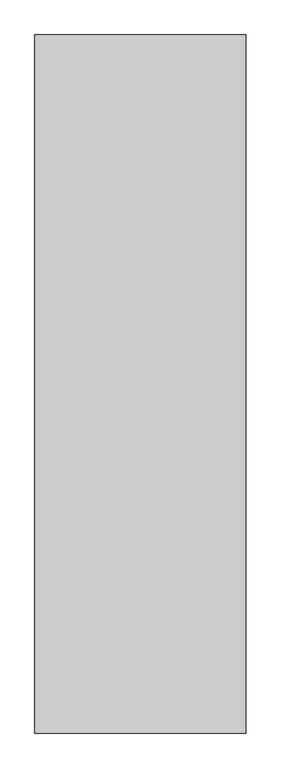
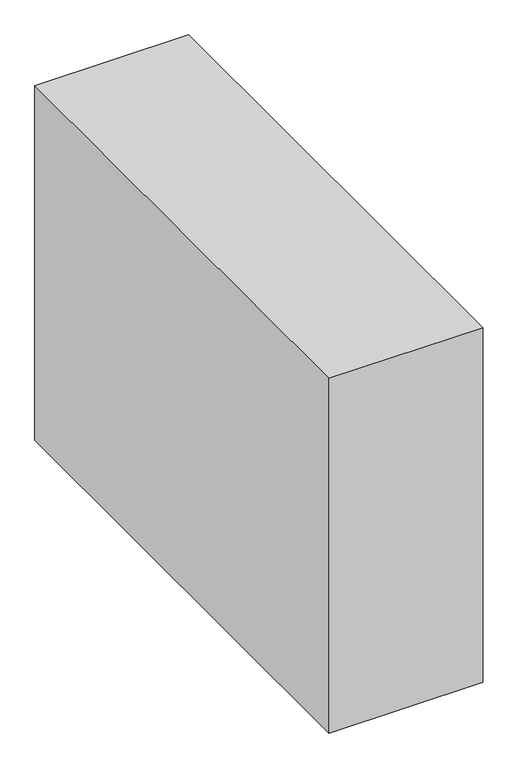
"""IFC4 building model written with IfcOpenShell, lengths in millimetres: proxy geometry."""

from ifc_helpers import new_model, si_unit, frame, origin, place, context, project, spatial, polyline, outline, extrude, source, transform, mapped, element, save


def generic_models_2b8dd830(model_context):
    return source(origin(), model_context, "Body", "SweptSolid", [
        extrude(outline(polyline([(13001.0851773, -1624.0), (12081.0851773, -1624.0), (12081.0851773, 1424.0), (13001.0851773, 1424.0), (13001.0851773, -1624.0)])), frame((0.0, 0.0, 800.0), z_axis=(0.0, 0.0, 1.0), x_axis=(1.0, 0.0, 0.0)), (0.0, 0.0, 1.0), 2240.0),
    ])


if __name__ == "__main__":
    model = new_model("IFC4")
    model_context = context("Model", 3, world=origin())
    ifc_project = project(units=[si_unit("LENGTHUNIT", "METRE", prefix="MILLI")], contexts=[model_context])
    site = spatial("IfcSite", under=ifc_project)
    building = spatial("IfcBuilding", under=site)
    placement = place(None, origin())
    generic_models_shape = generic_models_2b8dd830(model_context)
    element("IfcBuildingElementProxy", 1, Name="Generic Models", at=placement, inside=building, context=model_context, shape_type="MappedRepresentation", body=[
        mapped(generic_models_shape, transform((0.0, 0.0, 0.0), x_axis=(1.0, 0.0, 0.0), y_axis=(0.0, 1.0, 0.0), z_axis=(0.0, 0.0, 1.0))),
    ])
    save(model, "model.ifc")
